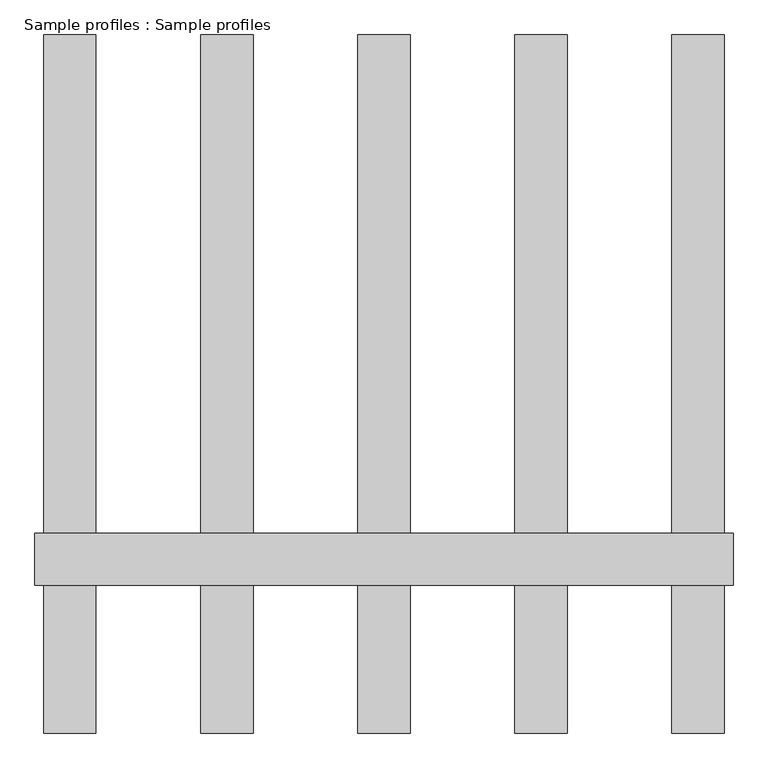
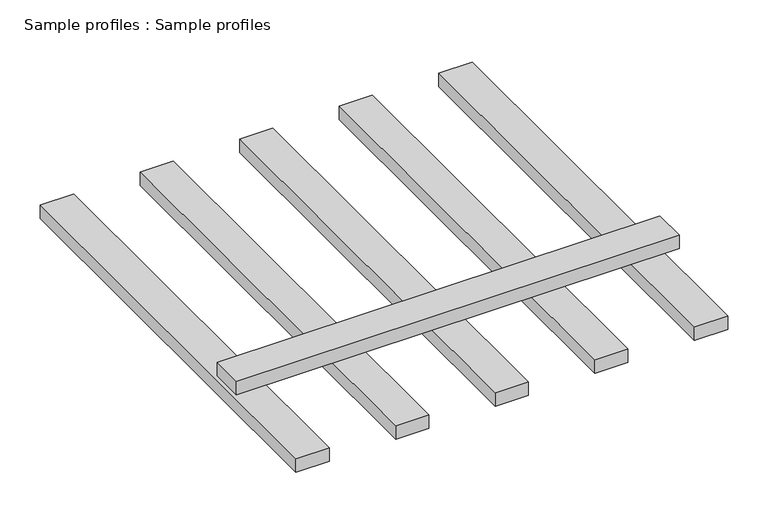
"""IFC4 building model written with IfcOpenShell, lengths in millimetres: proxy geometry, Sample profiles : Sample profiles."""

from ifc_helpers import new_model, si_unit, frame, origin, place, context, project, spatial, polyline, outline, extrude, source, transform, mapped, element, save


def sample_profiles_sample_profiles_62379226(model_context):
    return source(origin(), model_context, "Body", "SweptSolid", [
        extrude(outline(polyline([(20666.285179, 15499.9812188), (20666.285179, 15349.9812188), (18666.285179, 15349.9812188), (18666.285179, 15499.9812188), (20666.285179, 15499.9812188)])), frame((0.0, 0.0, 144.8178267), z_axis=(0.0, 0.0, 1.0), x_axis=(1.0, 0.0, 0.0)), (0.0, 0.0, 1.0), 65.0),
        extrude(outline(polyline([(19741.285179, 14926.9464372), (19591.285179, 14926.9464372), (19591.285179, 16926.9464372), (19741.285179, 16926.9464372), (19741.285179, 14926.9464372)])), frame((0.0, 0.0, 23.0), z_axis=(0.0, 0.0, 1.0), x_axis=(1.0, 0.0, 0.0)), (0.0, 0.0, 1.0), 65.0),
        extrude(outline(polyline([(20641.285179, 14926.9464372), (20491.285179, 14926.9464372), (20491.285179, 16926.9464372), (20641.285179, 16926.9464372), (20641.285179, 14926.9464372)])), frame((0.0, 0.0, 23.0), z_axis=(0.0, 0.0, 1.0), x_axis=(1.0, 0.0, 0.0)), (0.0, 0.0, 1.0), 65.0),
        extrude(outline(polyline([(20191.285179, 14926.9464372), (20041.285179, 14926.9464372), (20041.285179, 16926.9464372), (20191.285179, 16926.9464372), (20191.285179, 14926.9464372)])), frame((0.0, 0.0, 23.0), z_axis=(0.0, 0.0, 1.0), x_axis=(1.0, 0.0, 0.0)), (0.0, 0.0, 1.0), 65.0),
        extrude(outline(polyline([(18841.285179, 14926.9464372), (18691.285179, 14926.9464372), (18691.285179, 16926.9464372), (18841.285179, 16926.9464372), (18841.285179, 14926.9464372)])), frame((0.0, 0.0, 23.0), z_axis=(0.0, 0.0, 1.0), x_axis=(1.0, 0.0, 0.0)), (0.0, 0.0, 1.0), 65.0),
        extrude(outline(polyline([(19291.285179, 14926.9464372), (19141.285179, 14926.9464372), (19141.285179, 16926.9464372), (19291.285179, 16926.9464372), (19291.285179, 14926.9464372)])), frame((0.0, 0.0, 23.0), z_axis=(0.0, 0.0, 1.0), x_axis=(1.0, 0.0, 0.0)), (0.0, 0.0, 1.0), 65.0),
    ])


if __name__ == "__main__":
    model = new_model("IFC4")
    model_context = context("Model", 3, world=origin())
    ifc_project = project(units=[si_unit("LENGTHUNIT", "METRE", prefix="MILLI")], contexts=[model_context])
    site = spatial("IfcSite", under=ifc_project)
    building = spatial("IfcBuilding", under=site)
    placement = place(None, origin())
    sample_profiles_sample_profiles_shape = sample_profiles_sample_profiles_62379226(model_context)
    element("IfcBuildingElementProxy", 1, Name="Sample profiles : Sample profiles", ObjectType="Sample profiles : Sample profiles", at=placement, inside=building, context=model_context, shape_type="MappedRepresentation", body=[
        mapped(sample_profiles_sample_profiles_shape, transform((0.0, 0.0, 0.0), x_axis=(1.0, 0.0, 0.0), y_axis=(0.0, 1.0, 0.0), z_axis=(0.0, 0.0, 1.0))),
    ])
    save(model, "model.ifc")
